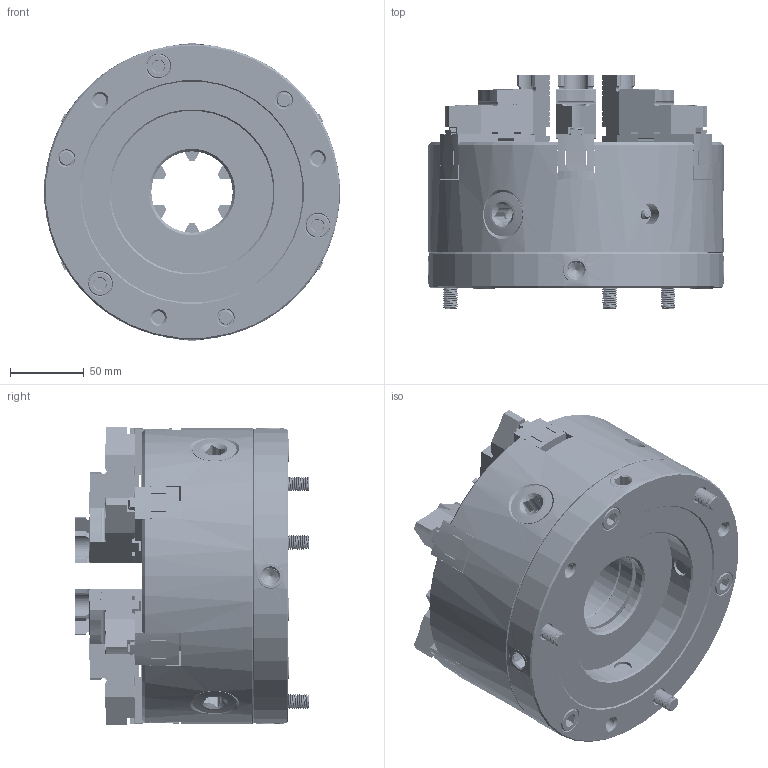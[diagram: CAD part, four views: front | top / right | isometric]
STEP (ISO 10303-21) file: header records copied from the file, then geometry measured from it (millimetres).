
FILE_DESCRIPTION (( 'STEP AP214' ), '1' );
FILE_NAME ('3-868-0800P REV A.STEP', '2024-10-29T18:01:27', ( '' ), ( '' ), 'SwSTEP 2.0', 'SolidWorks 2020', '' );
FILE_SCHEMA (( 'AUTOMOTIVE_DESIGN' ));
Length unit declared in the file: millimetre
Products named in the file (30): 3-883-608P_TOP JAW2; 3-899-310P_3-899-310P; 3-897-608P_3-897-608P; 3-891-608P_3-891-608P-JAW2-LASERMARKING; 3-891-608P_3-891-608P-JAW4-LASERMARKING; 3-891-608P_3-891-608P-JAW6-LASERMARKING; 3-868-0800P REV A; 3-885-608P_3-885-608P-JAW6-LASERMARKING; 3-885-608P_3-885-608P-JAW1-LASERMARKING; 3-886-308P_FOR WEBSITE; 3-885-608P_3-885-608P-JAW3-LASERMARKING; 3-809-906P_3-809-906P; C-CK8-COVER_C-CK8-COVER; 3-888-910P_3-888-910P; 3-883-608P_TOP JAW1; C-CK8-MODULE_C-CK8-MODULE; 3-883-608P_TOP JAW5; 0.375-16 X1.25 SHCS_0.375-16 X1.25 SHCS; 3-887-308P_FOR WEBSITE; 3-885-608P_3-885-608P-JAW2-LASERMARKING; 3-891-608P_3-891-608P-JAW3-LASERMARKING; 3-891-608P_3-891-608P-JAW1-LASERMARKING; 3-885-608P_3-885-608P-JAW4-LASERMARKING; 0.375-16 X0.75 SHCS_0.375-16 X0.75 SHCS; 3-897-10030_3-897-10030; C-CK8-BDY6JFM_C-CK8-BDY6JFM; 3-883-608P_TOP JAW3; 3-883-608P_TOP JAW4; 3-897-10100_3-897-10100
Assembly tree (54 placements, depth 3):
  3-868-0800P REV A
    C-CK8-BDY6JFM_C-CK8-BDY6JFM
    3-887-308P_FOR WEBSITE
    3-886-308P_FOR WEBSITE  x3
    C-CK8-COVER_C-CK8-COVER
    3-899-310P_3-899-310P  x3
    C-CK8-MODULE_C-CK8-MODULE
    3-897-10100_3-897-10100  x3
    3-897-608P_3-897-608P  x4
    3-891-608P_3-891-608P-JAW1-LASERMARKING
      3-885-608P_3-885-608P-JAW1-LASERMARKING
      3-883-608P_TOP JAW1
      0.375-16 X1.25 SHCS_0.375-16 X1.25 SHCS
      0.375-16 X0.75 SHCS_0.375-16 X0.75 SHCS
    3-891-608P_3-891-608P-JAW2-LASERMARKING
      3-885-608P_3-885-608P-JAW2-LASERMARKING
      3-883-608P_TOP JAW2
      0.375-16 X1.25 SHCS_0.375-16 X1.25 SHCS
      0.375-16 X0.75 SHCS_0.375-16 X0.75 SHCS
    3-891-608P_3-891-608P-JAW6-LASERMARKING
      3-885-608P_3-885-608P-JAW6-LASERMARKING
      3-883-608P_TOP JAW5
      0.375-16 X1.25 SHCS_0.375-16 X1.25 SHCS
      0.375-16 X0.75 SHCS_0.375-16 X0.75 SHCS
    3-897-10030_3-897-10030  x3
    3-888-910P_3-888-910P  x3
    3-891-608P_3-891-608P-JAW3-LASERMARKING
      3-885-608P_3-885-608P-JAW3-LASERMARKING
      3-883-608P_TOP JAW3
      0.375-16 X1.25 SHCS_0.375-16 X1.25 SHCS
      0.375-16 X0.75 SHCS_0.375-16 X0.75 SHCS
    3-891-608P_3-891-608P-JAW4-LASERMARKING
      3-885-608P_3-885-608P-JAW4-LASERMARKING
      3-883-608P_TOP JAW4
      0.375-16 X1.25 SHCS_0.375-16 X1.25 SHCS
      0.375-16 X0.75 SHCS_0.375-16 X0.75 SHCS
    3-891-608P_3-891-608P-JAW6-LASERMARKING
      3-885-608P_3-885-608P-JAW6-LASERMARKING
      3-883-608P_TOP JAW5
      0.375-16 X1.25 SHCS_0.375-16 X1.25 SHCS
      0.375-16 X0.75 SHCS_0.375-16 X0.75 SHCS
    3-809-906P_3-809-906P
Bounding box: 200 x 158.15 x 202.17 mm (x, y, z)
Volume: 2663187.6 mm3; surface area: 598373.4 mm2
Topology: 48 solids, 48 shells, 5619 faces, 15039 edges, 9707 vertices
Faces by surface type: plane 2289, cylinder 1570, cone 914, bspline 726, torus 101, sphere 19
Entity records: 178028 total; most frequent: CARTESIAN_POINT 84448, ORIENTED_EDGE 20750, DIRECTION 16211, EDGE_CURVE 10375, VERTEX_POINT 6771, VECTOR 5781, LINE 5781, AXIS2_PLACEMENT_3D 5215
